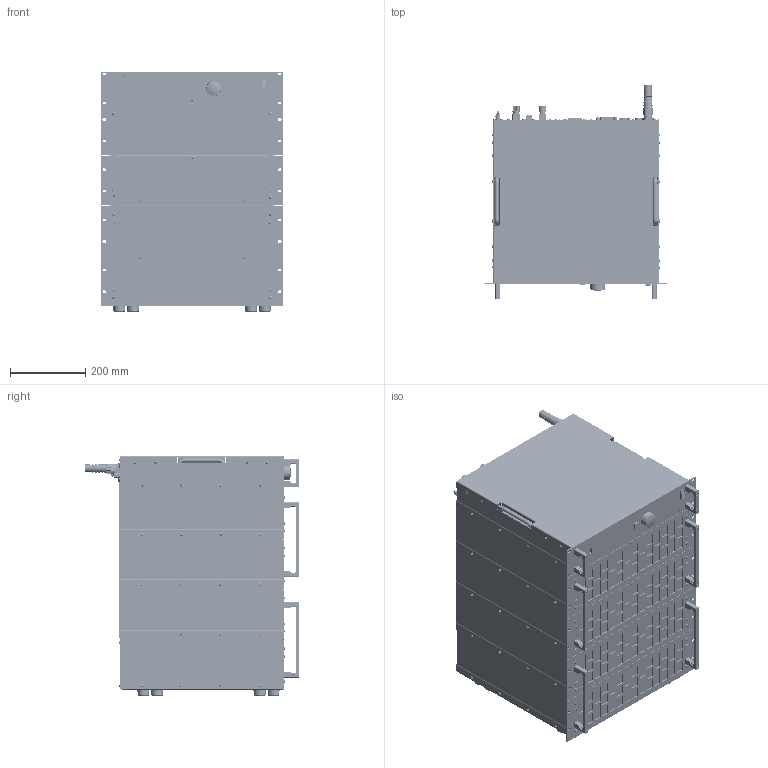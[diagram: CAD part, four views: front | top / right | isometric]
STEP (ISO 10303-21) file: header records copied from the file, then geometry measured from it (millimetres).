
FILE_DESCRIPTION(('STEP AP214'),'1');
FILE_NAME('QL_M42_19Z_14HE_BPK4_60L_3D_01.step','2022-03-15T08:17:54',(' '),(' '),'Spatial InterOp 3D',' ',' ');
FILE_SCHEMA(('AUTOMOTIVE_DESIGN { 1 0 10303 214 1 1 1 1 }'));
Length unit declared in the file: millimetre
Products named in the file (38): 3HE_Leistungsteil_mit_Gummifüssen_3D_01; *U404; *U405; *U406; *U415; AutoCreatedBlock_4235; 3HE_Leistungsteil_3D_01; *U420; *U421; *U422; AutoCreatedBlock_4261; DIN 966-A; Steuereinheit_BPK4_60L_mit_BG439_3D_01; 2121_Steuerteil_modular_Seitenteil_links_3D_02; 2122_Steuerteil_modular_Seitenteil_rechts_3D_02; A$C5EF2ED09; 3xM2.5_5x5x12; AutoCreatedBlock_4281; A$C6092449D; Frontplatte_5HE_Steuerteil_mit_Einbauten_3D; A$C60925E47; A$C60A76697; 2246_QL Rückwand Steuerteil 5HE_mit_Einbauten_3D_01; *U305; *U306; *U307; AutoCreatedBlock_4293; 2257_QL_IO Panel Standard_3D_01; 2084_IO-Port Abdeckung_3D_01; *U528; *U529; *U530; *U531; *U532; BG439_mit_MT2345_3D_01; AutoCreatedBlock_4271; AutoCreatedBlock_4231
Assembly tree (150 placements, depth 4):
  (unnamed)
    3HE_Leistungsteil_mit_Gummifüssen_3D_01
      *U404  x10
      *U405  x6
      *U406  x6
      *U415  x6
      AutoCreatedBlock_4235
    3HE_Leistungsteil_3D_01  x3
      *U420
      *U421
      *U422
      AutoCreatedBlock_4261
    DIN 966-A  x7
    Steuereinheit_BPK4_60L_mit_BG439_3D_01
      2121_Steuerteil_modular_Seitenteil_links_3D_02
      2122_Steuerteil_modular_Seitenteil_rechts_3D_02
      A$C5EF2ED09
        3xM2.5_5x5x12  x2
        AutoCreatedBlock_4281
      A$C6092449D
      Frontplatte_5HE_Steuerteil_mit_Einbauten_3D
      A$C60925E47
      A$C60A76697
      2246_QL Rückwand Steuerteil 5HE_mit_Einbauten_3D_01
        *U305
        *U306  x2
        *U307  x3
        AutoCreatedBlock_4293
      2257_QL_IO Panel Standard_3D_01
      2084_IO-Port Abdeckung_3D_01  x2
      *U528  x17
      *U529  x9
      *U530  x26
      *U531  x2
      *U532  x4
      BG439_mit_MT2345_3D_01
      AutoCreatedBlock_4271
    AutoCreatedBlock_4231
Bounding box: 482.61 x 569.25 x 637.92 mm (x, y, z)
Volume: 52420823.5 mm3; surface area: 7292278.3 mm2
Topology: 467 solids, 1560 shells, 33320 faces, 87323 edges, 56474 vertices
Faces by surface type: plane 15954, cone 11135, cylinder 5043, torus 519, sphere 374, bspline 273, extrusion 22
Entity records: 864258 total; most frequent: CARTESIAN_POINT 159557, DIRECTION 113015, ORIENTED_EDGE 106488, EDGE_CURVE 54624, AXIS2_PLACEMENT_3D 38372, VECTOR 36271, LINE 36249, VERTEX_POINT 34785
